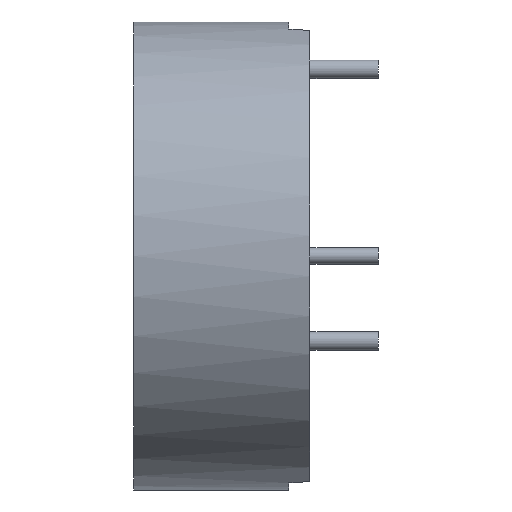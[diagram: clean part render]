
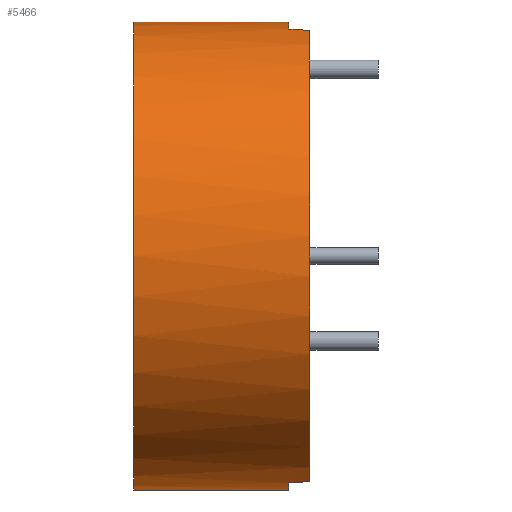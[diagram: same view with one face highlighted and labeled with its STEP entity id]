
A CAD part, left-side view. The second image highlights one B-rep face of the part: STEP entity #5466.
In plain terms, the highlighted cylindrical face has radius 14.287 mm (diameter 28.575 mm), a partial arc.
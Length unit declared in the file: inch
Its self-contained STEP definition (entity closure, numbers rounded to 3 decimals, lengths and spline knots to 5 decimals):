
#30 = CARTESIAN_POINT ( 'NONE',  ( 0., 0.2115, 0. ) ) ;
#37 = CARTESIAN_POINT ( 'NONE',  ( -0.15, -0.2115, 0.54213 ) ) ;
#302 = AXIS2_PLACEMENT_3D ( 'NONE', #1867, #4896, #9604 ) ;
#975 = CARTESIAN_POINT ( 'NONE',  ( -0.1366, -0.1615, 0.54566 ) ) ;
#1577 = CARTESIAN_POINT ( 'NONE',  ( 0., 0.2115, -0.5625 ) ) ;
#1668 = DIRECTION ( 'NONE',  ( 0., 1., 0. ) ) ;
#1712 = CARTESIAN_POINT ( 'NONE',  ( -0.1366, -0.1615, -0.54566 ) ) ;
#1867 = CARTESIAN_POINT ( 'NONE',  ( 0., -0.2115, 0. ) ) ;
#1902 = EDGE_CURVE ( 'NONE', #4869, #5104, #6826, .T. ) ;
#2136 = CARTESIAN_POINT ( 'NONE',  ( 0., 0.2115, 0.5625 ) ) ;
#2365 = VECTOR ( 'NONE', #3562, 39.37008 ) ;
#2372 = CARTESIAN_POINT ( 'NONE',  ( -0.14555, -0.19489, 0.54336 ) ) ;
#2423 = CARTESIAN_POINT ( 'NONE',  ( 0., 0.2115, 0. ) ) ;
#2716 = ORIENTED_EDGE ( 'NONE', *, *, #2791, .T. ) ;
#2791 = EDGE_CURVE ( 'NONE', #2893, #7123, #6644, .T. ) ;
#2868 = VERTEX_POINT ( 'NONE', #4393 ) ;
#2893 = VERTEX_POINT ( 'NONE', #7410 ) ;
#2955 = EDGE_CURVE ( 'NONE', #8835, #2868, #5644, .T. ) ;
#3070 = FACE_OUTER_BOUND ( 'NONE', #9465, .T. ) ;
#3174 = CARTESIAN_POINT ( 'NONE',  ( -0.14555, -0.19489, -0.54336 ) ) ;
#3269 = CARTESIAN_POINT ( 'NONE',  ( 0., -0.1615, 0. ) ) ;
#3316 = VECTOR ( 'NONE', #3803, 39.37008 ) ;
#3562 = DIRECTION ( 'NONE',  ( 0., -1., 0. ) ) ;
#3565 = DIRECTION ( 'NONE',  ( 0., 0., 1. ) ) ;
#3658 =( BOUNDED_CURVE ( )  B_SPLINE_CURVE ( 3, ( #37, #2372, #7720, #975 ),
 .UNSPECIFIED., .F., .T. ) 
 B_SPLINE_CURVE_WITH_KNOTS ( ( 4, 4 ),
 ( 1.30086, 1.32549 ),
 .UNSPECIFIED. ) 
 CURVE ( )  GEOMETRIC_REPRESENTATION_ITEM ( )  RATIONAL_B_SPLINE_CURVE ( ( 1., 1., 1., 1. ) ) 
 REPRESENTATION_ITEM ( '' )  );
#3803 = DIRECTION ( 'NONE',  ( 0., -1., 0. ) ) ;
#3824 = VERTEX_POINT ( 'NONE', #1712 ) ;
#3841 = CARTESIAN_POINT ( 'NONE',  ( -0.1366, -0.1615, 0.54566 ) ) ;
#4034 = CIRCLE ( 'NONE', #9590, 0.5625 ) ;
#4093 = ORIENTED_EDGE ( 'NONE', *, *, #2955, .F. ) ;
#4253 = AXIS2_PLACEMENT_3D ( 'NONE', #3269, #8615, #7918 ) ;
#4309 = CARTESIAN_POINT ( 'NONE',  ( 0., 0.2115, 0.5625 ) ) ;
#4393 = CARTESIAN_POINT ( 'NONE',  ( 0., -0.1615, 0.5625 ) ) ;
#4461 = ORIENTED_EDGE ( 'NONE', *, *, #5743, .F. ) ;
#4665 = EDGE_CURVE ( 'NONE', #6862, #2868, #8377, .T. ) ;
#4695 = AXIS2_PLACEMENT_3D ( 'NONE', #8125, #5995, #3565 ) ;
#4855 = CIRCLE ( 'NONE', #4695, 0.5625 ) ;
#4869 = VERTEX_POINT ( 'NONE', #7844 ) ;
#4896 = DIRECTION ( 'NONE',  ( 0., 1., 0. ) ) ;
#5104 = VERTEX_POINT ( 'NONE', #5458 ) ;
#5405 = CARTESIAN_POINT ( 'NONE',  ( -0.15, -0.2115, -0.54213 ) ) ;
#5458 = CARTESIAN_POINT ( 'NONE',  ( 0., -0.1615, -0.5625 ) ) ;
#5466 = ADVANCED_FACE ( 'NONE', ( #3070 ), #6094, .T. ) ;
#5644 = LINE ( 'NONE', #4309, #2365 ) ;
#5743 = EDGE_CURVE ( 'NONE', #4869, #8835, #4034, .T. ) ;
#5995 = DIRECTION ( 'NONE',  ( 0., 1., 0. ) ) ;
#6094 = CYLINDRICAL_SURFACE ( 'NONE', #8386, 0.5625 ) ;
#6096 = CARTESIAN_POINT ( 'NONE',  ( -0.14108, -0.17822, -0.54454 ) ) ;
#6130 = DIRECTION ( 'NONE',  ( 0., 0., 1. ) ) ;
#6198 = EDGE_CURVE ( 'NONE', #3824, #2893, #9473, .T. ) ;
#6644 = CIRCLE ( 'NONE', #302, 0.5625 ) ;
#6826 = LINE ( 'NONE', #1577, #3316 ) ;
#6862 = VERTEX_POINT ( 'NONE', #3841 ) ;
#6936 = DIRECTION ( 'NONE',  ( 0., 0., -1. ) ) ;
#7123 = VERTEX_POINT ( 'NONE', #9729 ) ;
#7154 = ORIENTED_EDGE ( 'NONE', *, *, #8002, .T. ) ;
#7410 = CARTESIAN_POINT ( 'NONE',  ( -0.15, -0.2115, -0.54213 ) ) ;
#7720 = CARTESIAN_POINT ( 'NONE',  ( -0.14108, -0.17822, 0.54454 ) ) ;
#7844 = CARTESIAN_POINT ( 'NONE',  ( 0., 0.2115, -0.5625 ) ) ;
#7918 = DIRECTION ( 'NONE',  ( 0., 0., 1. ) ) ;
#8002 = EDGE_CURVE ( 'NONE', #7123, #6862, #3658, .T. ) ;
#8125 = CARTESIAN_POINT ( 'NONE',  ( 0., -0.1615, 0. ) ) ;
#8247 = ORIENTED_EDGE ( 'NONE', *, *, #9701, .T. ) ;
#8377 = CIRCLE ( 'NONE', #4253, 0.5625 ) ;
#8386 = AXIS2_PLACEMENT_3D ( 'NONE', #2423, #9069, #6936 ) ;
#8615 = DIRECTION ( 'NONE',  ( 0., 1., 0. ) ) ;
#8792 = ORIENTED_EDGE ( 'NONE', *, *, #4665, .T. ) ;
#8835 = VERTEX_POINT ( 'NONE', #2136 ) ;
#9069 = DIRECTION ( 'NONE',  ( 0., -1., 0. ) ) ;
#9126 = ORIENTED_EDGE ( 'NONE', *, *, #6198, .T. ) ;
#9172 = CARTESIAN_POINT ( 'NONE',  ( -0.1366, -0.1615, -0.54566 ) ) ;
#9178 = ORIENTED_EDGE ( 'NONE', *, *, #1902, .T. ) ;
#9465 = EDGE_LOOP ( 'NONE', ( #4093, #4461, #9178, #8247, #9126, #2716, #7154, #8792 ) ) ;
#9473 =( BOUNDED_CURVE ( )  B_SPLINE_CURVE ( 3, ( #9172, #6096, #3174, #5405 ),
 .UNSPECIFIED., .F., .F. ) 
 B_SPLINE_CURVE_WITH_KNOTS ( ( 4, 4 ),
 ( 4.95769, 4.98232 ),
 .UNSPECIFIED. ) 
 CURVE ( )  GEOMETRIC_REPRESENTATION_ITEM ( )  RATIONAL_B_SPLINE_CURVE ( ( 1., 1., 1., 1. ) ) 
 REPRESENTATION_ITEM ( '' )  );
#9590 = AXIS2_PLACEMENT_3D ( 'NONE', #30, #1668, #6130 ) ;
#9604 = DIRECTION ( 'NONE',  ( 0., 0., 1. ) ) ;
#9701 = EDGE_CURVE ( 'NONE', #5104, #3824, #4855, .T. ) ;
#9729 = CARTESIAN_POINT ( 'NONE',  ( -0.15, -0.2115, 0.54213 ) ) ;
